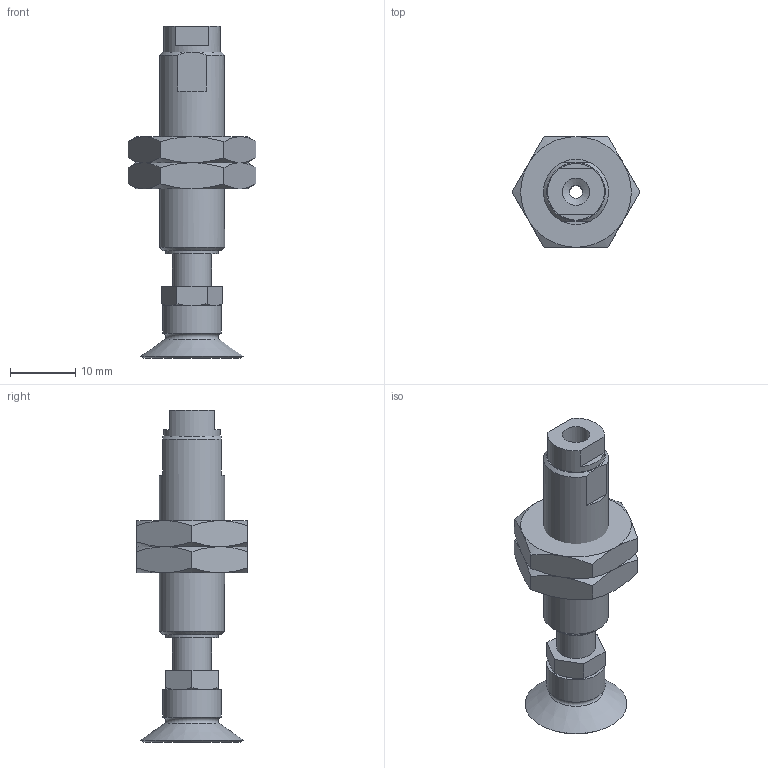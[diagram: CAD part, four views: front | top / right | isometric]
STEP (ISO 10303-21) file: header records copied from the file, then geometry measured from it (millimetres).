
FILE_DESCRIPTION(('STEP AP203'),'1');
FILE_NAME('-LB.stp','2025-04-10T08:34:58',(' '),(' '),'Spatial InterOp 3D',' ',' ');
FILE_SCHEMA(('CONFIG_CONTROL_DESIGN'));
Length unit declared in the file: millimetre
Products named in the file (8): BNABPFTH-15A-5-※-LB; __; BODY; NUT; TN-PS-10-M5; Setting screws-TN-PS-10-M5; BPFG-15A-※
Assembly tree (7 placements, depth 3):
  BNABPFTH-15A-5-※-LB
    __
    BODY
    NUT
    NUT
    TN-PS-10-M5
      Setting screws-TN-PS-10-M5
    BPFG-15A-※
Bounding box: 19.63 x 17 x 51 mm (x, y, z)
Volume: 4655.3 mm3; surface area: 4205.8 mm2
Topology: 6 solids, 6 shells, 126 faces, 266 edges, 160 vertices
Faces by surface type: plane 58, cone 41, cylinder 18, torus 8, bspline 1
Full cylindrical faces by diameter (mm): 2 x3, 3.9 x1, 4 x2, 4.2 x2, 5 x1, 6 x3, 8 x1, 8.7 x1, 9 x3, 10 x1
Entity records: 3637 total; most frequent: CARTESIAN_POINT 768, DIRECTION 522, ORIENTED_EDGE 444, AXIS2_PLACEMENT_3D 230, EDGE_CURVE 222, EDGE_LOOP 182, FACE_OUTER_BOUND 153, VERTEX_POINT 152
